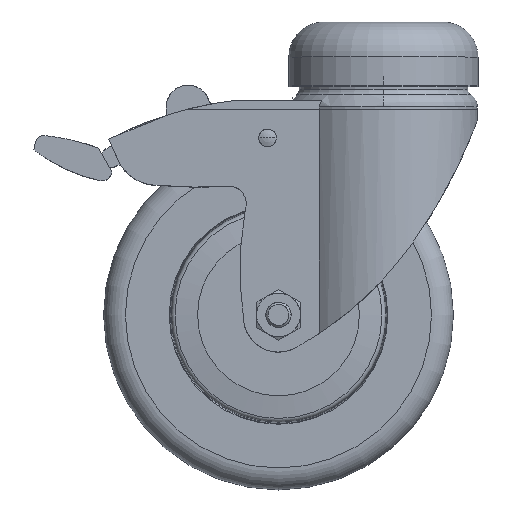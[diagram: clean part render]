
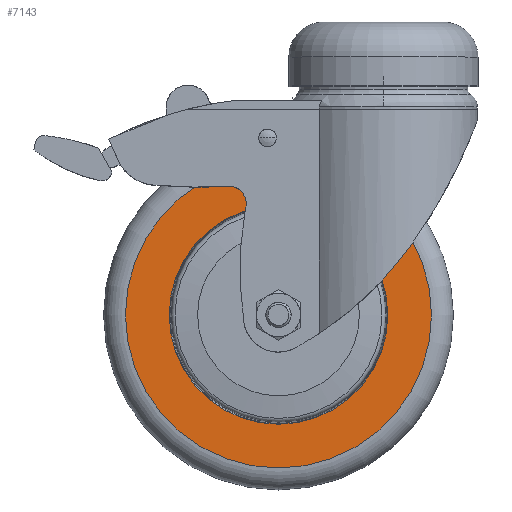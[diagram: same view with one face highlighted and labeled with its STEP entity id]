
A CAD part, top view. The second image highlights one B-rep face of the part: STEP entity #7143.
In plain terms, the highlighted planar face has unit normal (0, 0, 1).
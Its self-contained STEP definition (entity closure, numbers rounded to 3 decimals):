
#1106=FACE_BOUND('',#2547,.T.);
#1143=PLANE('',#7461);
#2269=FACE_OUTER_BOUND('',#2546,.T.);
#2546=EDGE_LOOP('',(#5792));
#2547=EDGE_LOOP('',(#5793));
#2862=CIRCLE('',#7460,35.);
#2863=CIRCLE('',#7462,25.);
#3309=VERTEX_POINT('',#10153);
#3310=VERTEX_POINT('',#10157);
#4528=EDGE_CURVE('',#3309,#3309,#2862,.T.);
#4529=EDGE_CURVE('',#3310,#3310,#2863,.T.);
#5792=ORIENTED_EDGE('',*,*,#4528,.F.);
#5793=ORIENTED_EDGE('',*,*,#4529,.T.);
#7143=ADVANCED_FACE('',(#2269,#1106),#1143,.T.);
#7460=AXIS2_PLACEMENT_3D('',#10155,#8231,#8232);
#7461=AXIS2_PLACEMENT_3D('',#10156,#8233,#8234);
#7462=AXIS2_PLACEMENT_3D('',#10158,#8235,#8236);
#8231=DIRECTION('center_axis',(0.,0.,-1.));
#8232=DIRECTION('ref_axis',(-1.,0.,0.));
#8233=DIRECTION('center_axis',(0.,0.,1.));
#8234=DIRECTION('ref_axis',(1.,0.,0.));
#8235=DIRECTION('center_axis',(0.,0.,-1.));
#8236=DIRECTION('ref_axis',(-1.,0.,0.));
#10153=CARTESIAN_POINT('',(11.,-62.5,12.5));
#10155=CARTESIAN_POINT('Origin',(-24.,-62.5,12.5));
#10156=CARTESIAN_POINT('Origin',(-24.,-33.75,12.5));
#10157=CARTESIAN_POINT('',(1.,-62.5,12.5));
#10158=CARTESIAN_POINT('Origin',(-24.,-62.5,12.5));
